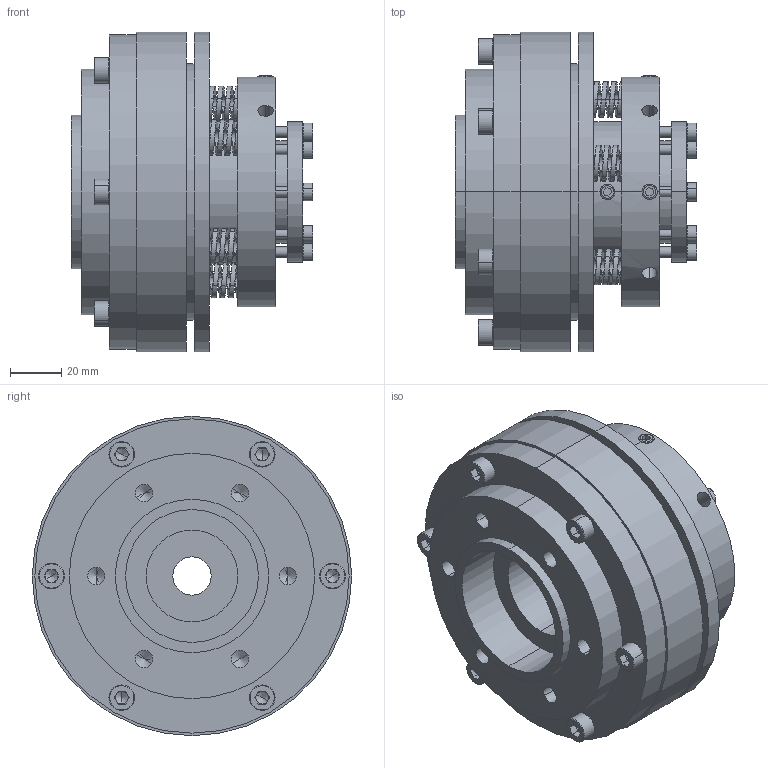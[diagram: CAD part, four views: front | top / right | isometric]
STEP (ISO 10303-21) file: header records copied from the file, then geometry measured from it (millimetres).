
FILE_DESCRIPTION (( 'STEP AP214' ), '1' );
FILE_NAME ('STL150F-P-L-M.STEP', '2020-03-01T04:27:57', ( '' ), ( '' ), 'SwSTEP 2.0', 'SolidWorks 2015', '' );
FILE_SCHEMA (( 'AUTOMOTIVE_DESIGN' ));
Length unit declared in the file: millimetre
Products named in the file (1): STL150F-P-L-M
Bounding box: 94.6 x 125 x 125 mm (x, y, z)
Volume: 608201 mm3; surface area: 101850.5 mm2
Topology: 1 solids, 9 shells, 790 faces, 1901 edges, 1150 vertices
Faces by surface type: cylinder 336, plane 296, torus 84, cone 64, bspline 10
Entity records: 53192 total; most frequent: CARTESIAN_POINT 26287, DIRECTION 3859, ORIENTED_EDGE 3706, EDGE_CURVE 1853, AXIS2_PLACEMENT_3D 1497, VERTEX_POINT 1150, EDGE_LOOP 899, LINE 865
